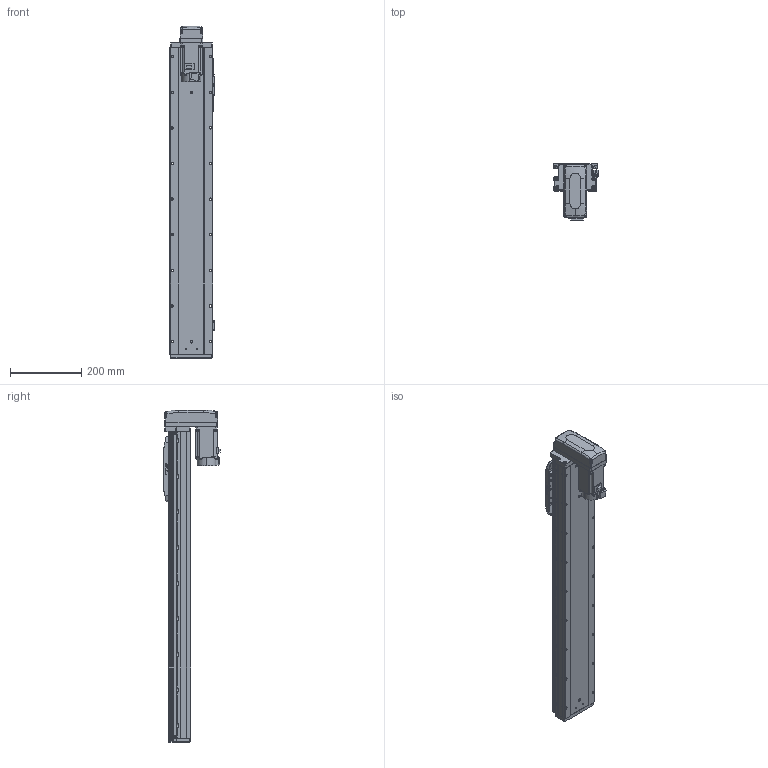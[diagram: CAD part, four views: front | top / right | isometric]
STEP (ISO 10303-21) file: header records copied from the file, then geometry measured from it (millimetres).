
FILE_DESCRIPTION (( 'STEP AP203' ), '1' );
FILE_NAME ('GTH12-650-BM-M40-C4.step', '2022-09-29T02:02:11', ( '微软用户' ), ( '微软中国' ), 'SwSTEP 2.0', 'SolidWorks 2020', '' );
FILE_SCHEMA (( 'CONFIG_CONTROL_DESIGN' ));
Length unit declared in the file: millimetre
Products named in the file (18): BTH-M3X5X6; GTH120-001_650; GBT 70.3-M3℅8; hg-kn43j_-s100_; GTH120-003; GTH80-022; CTHA86-033_M40B; GTH120-006; GTH80-028; GTH120-027-1_GTH120-027-2; GTH120-004; GTH50-023; GTH12-650-BM-M40-C4; GTH120-013; GTH50-024; GBT 70.1-M3℅6; GBT96.1-2002 3×0.8; GBT 70.1-M5×16
Assembly tree (59 placements, depth 2):
  GTH12-650-BM-M40-C4
    GTH120-001_650
    GTH120-003
    GTH120-006
    GTH120-004
    GTH120-013
    GBT 70.1-M3℅6  x14
    GBT 70.1-M5×16  x10
    GBT 70.3-M3℅8  x4
    GTH80-022
    GTH80-028  x2
    GTH50-023  x3
    GTH50-024  x3
    GBT96.1-2002 3×0.8  x6
    BTH-M3X5X6  x8
    hg-kn43j_-s100_
    CTHA86-033_M40B
    GTH120-027-1_GTH120-027-2
Bounding box: 125.7 x 159.8 x 932 mm (x, y, z)
Volume: 6862829.1 mm3; surface area: 629419.4 mm2
Topology: 61 solids, 61 shells, 2451 faces, 5716 edges, 3507 vertices
Faces by surface type: plane 1262, cylinder 709, cone 292, torus 174, sphere 8, bspline 6
Entity records: 45858 total; most frequent: CARTESIAN_POINT 7804, DIRECTION 7584, ORIENTED_EDGE 7042, EDGE_CURVE 3521, AXIS2_PLACEMENT_3D 2652, LINE 2280, VECTOR 2280, VERTEX_POINT 2228
